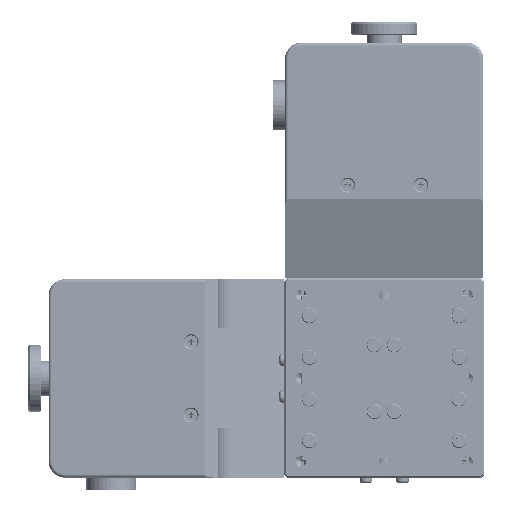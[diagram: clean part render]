
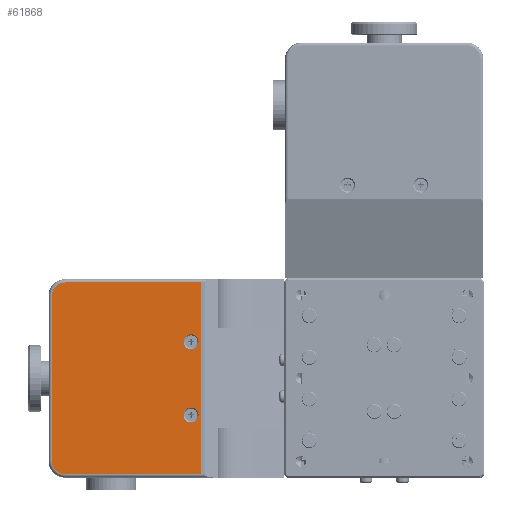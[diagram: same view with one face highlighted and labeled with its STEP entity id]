
A CAD part, top view. The second image highlights one B-rep face of the part: STEP entity #61868.
In plain terms, the highlighted planar face has unit normal (0, 0, 1).
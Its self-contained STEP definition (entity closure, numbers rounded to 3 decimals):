
#1624=CARTESIAN_POINT('',(-99.8,-24.8,-96.78));
#1625=VERTEX_POINT('',#1624);
#1633=CARTESIAN_POINT('',(-99.8,24.8,-96.78));
#1634=VERTEX_POINT('',#1633);
#1635=CARTESIAN_POINT('',(-99.8,-24.8,-96.78));
#1636=DIRECTION('',(0.0,1.0,0.0));
#1637=VECTOR('',#1636,49.6);
#1638=LINE('',#1635,#1637);
#1639=EDGE_CURVE('',#1625,#1634,#1638,.T.);
#1666=CARTESIAN_POINT('',(-95.8,28.8,-96.78));
#1667=VERTEX_POINT('',#1666);
#1675=CARTESIAN_POINT('',(-55.,28.8,-96.78));
#1676=VERTEX_POINT('',#1675);
#1677=CARTESIAN_POINT('',(-95.8,28.8,-96.78));
#1678=DIRECTION('',(1.0,0.0,0.0));
#1679=VECTOR('',#1678,40.8);
#1680=LINE('',#1677,#1679);
#1681=EDGE_CURVE('',#1667,#1676,#1680,.T.);
#1708=CARTESIAN_POINT('',(-55.,-28.8,-96.78));
#1709=VERTEX_POINT('',#1708);
#1717=CARTESIAN_POINT('',(-95.8,-28.8,-96.78));
#1718=VERTEX_POINT('',#1717);
#1719=CARTESIAN_POINT('',(-55.,-28.8,-96.78));
#1720=DIRECTION('',(-1.0,0.0,0.0));
#1721=VECTOR('',#1720,40.8);
#1722=LINE('',#1719,#1721);
#1723=EDGE_CURVE('',#1709,#1718,#1722,.T.);
#2121=CARTESIAN_POINT('',(-55.75,11.,-96.78));
#2122=VERTEX_POINT('',#2121);
#2138=CARTESIAN_POINT('',(-60.25,11.,-96.78));
#2139=VERTEX_POINT('',#2138);
#2146=CARTESIAN_POINT('',(-58.,11.,-96.78));
#2147=DIRECTION('',(0.0,0.0,-1.0));
#2148=DIRECTION('',(1.0,0.0,0.0));
#2149=AXIS2_PLACEMENT_3D('',#2146,#2147,#2148);
#2150=CIRCLE('',#2149,2.25);
#2151=EDGE_CURVE('',#2122,#2139,#2150,.T.);
#2237=CARTESIAN_POINT('',(-55.75,-11.,-96.78));
#2238=VERTEX_POINT('',#2237);
#2254=CARTESIAN_POINT('',(-60.25,-11.,-96.78));
#2255=VERTEX_POINT('',#2254);
#2262=CARTESIAN_POINT('',(-58.,-11.,-96.78));
#2263=DIRECTION('',(0.0,0.0,-1.0));
#2264=DIRECTION('',(1.0,0.0,0.0));
#2265=AXIS2_PLACEMENT_3D('',#2262,#2263,#2264);
#2266=CIRCLE('',#2265,2.25);
#2267=EDGE_CURVE('',#2238,#2255,#2266,.T.);
#26532=CARTESIAN_POINT('',(-55.,28.8,-96.78));
#26533=DIRECTION('',(0.0,-1.0,0.0));
#26534=VECTOR('',#26533,57.6);
#26535=LINE('',#26532,#26534);
#26536=EDGE_CURVE('',#1676,#1709,#26535,.T.);
#61475=CARTESIAN_POINT('',(-58.,-11.,-96.78));
#61476=DIRECTION('',(0.0,0.0,-1.0));
#61477=DIRECTION('',(1.0,0.0,0.0));
#61478=AXIS2_PLACEMENT_3D('',#61475,#61476,#61477);
#61479=CIRCLE('',#61478,2.25);
#61480=EDGE_CURVE('',#2255,#2238,#61479,.T.);
#61553=CARTESIAN_POINT('',(-58.,11.,-96.78));
#61554=DIRECTION('',(0.0,0.0,-1.0));
#61555=DIRECTION('',(1.0,0.0,0.0));
#61556=AXIS2_PLACEMENT_3D('',#61553,#61554,#61555);
#61557=CIRCLE('',#61556,2.25);
#61558=EDGE_CURVE('',#2139,#2122,#61557,.T.);
#61835=CARTESIAN_POINT('',(-67.65,0.,-96.78));
#61836=DIRECTION('',(0.0,0.0,1.0));
#61837=DIRECTION('',(1.0,0.0,0.0));
#61838=AXIS2_PLACEMENT_3D('',#61835,#61836,#61837);
#61839=PLANE('',#61838);
#61840=ORIENTED_EDGE('',*,*,#1681,.F.);
#61841=CARTESIAN_POINT('',(-95.8,24.8,-96.78));
#61842=DIRECTION('',(0.,0.,-1.0));
#61843=DIRECTION('',(-0.707,0.707,0.));
#61844=AXIS2_PLACEMENT_3D('',#61841,#61842,#61843);
#61845=CIRCLE('',#61844,4.);
#61846=EDGE_CURVE('',#1634,#1667,#61845,.T.);
#61847=ORIENTED_EDGE('',*,*,#61846,.F.);
#61848=ORIENTED_EDGE('',*,*,#1639,.F.);
#61849=CARTESIAN_POINT('',(-95.8,-24.8,-96.78));
#61850=DIRECTION('',(0.,0.,-1.0));
#61851=DIRECTION('',(-0.707,-0.707,0.));
#61852=AXIS2_PLACEMENT_3D('',#61849,#61850,#61851);
#61853=CIRCLE('',#61852,4.);
#61854=EDGE_CURVE('',#1718,#1625,#61853,.T.);
#61855=ORIENTED_EDGE('',*,*,#61854,.F.);
#61856=ORIENTED_EDGE('',*,*,#1723,.F.);
#61857=ORIENTED_EDGE('',*,*,#26536,.F.);
#61858=EDGE_LOOP('',(#61840,#61847,#61848,#61855,#61856,#61857));
#61859=FACE_OUTER_BOUND('',#61858,.T.);
#61860=ORIENTED_EDGE('',*,*,#2267,.T.);
#61861=ORIENTED_EDGE('',*,*,#61480,.T.);
#61862=EDGE_LOOP('',(#61860,#61861));
#61863=FACE_BOUND('',#61862,.T.);
#61864=ORIENTED_EDGE('',*,*,#2151,.T.);
#61865=ORIENTED_EDGE('',*,*,#61558,.T.);
#61866=EDGE_LOOP('',(#61864,#61865));
#61867=FACE_BOUND('',#61866,.T.);
#61868=ADVANCED_FACE('',(#61859,#61863,#61867),#61839,.T.);
